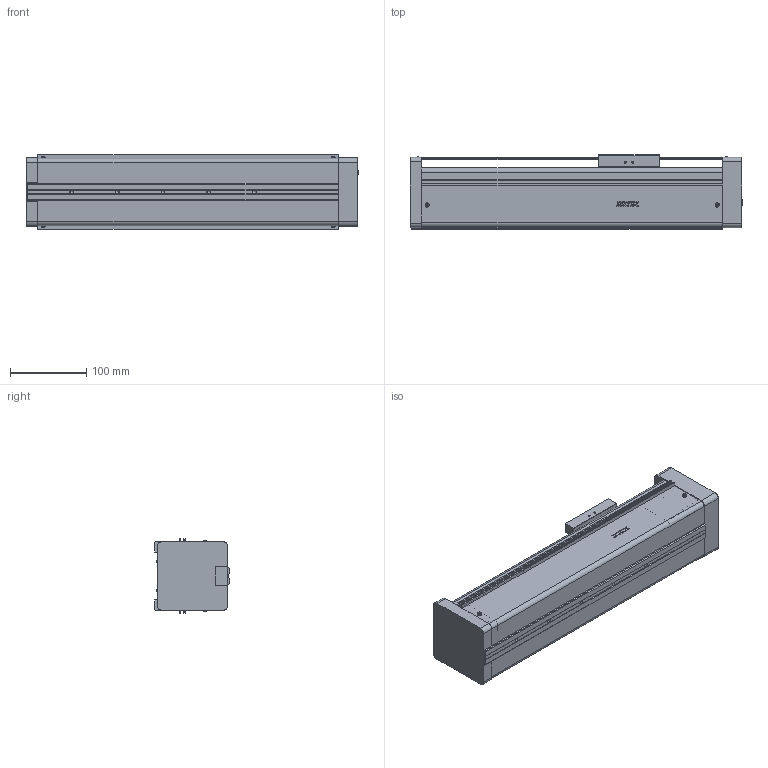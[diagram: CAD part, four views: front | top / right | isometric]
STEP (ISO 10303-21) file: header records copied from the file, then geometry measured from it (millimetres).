
FILE_DESCRIPTION(/* description */ (''),/* implementation_level */ '2;1');
FILE_NAME(/* name */ 'D:\混合母檔20191031\混和母檔\混和母檔\bin\Debug\Download\3D\KE9010C-200AF0\KE9010C-200AF0.stp',/* time_stamp */ '2019-11-04T14:22:27+08:00',/* author */ ('user'),/* organization */ (''),/* preprocessor_version */ 'ST-DEVELOPER v16.13',/* originating_system */ 'Autodesk Inventor 2018',/* authorisation */ '');
FILE_SCHEMA (('AUTOMOTIVE_DESIGN { 1 0 10303 214 3 1 1 }'));
Length unit declared in the file: millimetre
Products named in the file (3): KE9010C-200AF0; KE90-F0-BP; KE90-SL
Assembly tree (2 placements, depth 2):
  KE9010C-200AF0
    KE90-F0-BP
    KE90-SL
Bounding box: 436 x 98 x 98.4 mm (x, y, z)
Volume: 3033926.1 mm3; surface area: 308647 mm2
Topology: 3 solids, 22 shells, 871 faces, 2307 edges, 1523 vertices
Faces by surface type: plane 494, bspline 136, cone 115, cylinder 78, torus 40, sphere 8
Full cylindrical faces by diameter (mm): 2.5 x16, 3 x2, 3.3 x4, 4.2 x4, 4.5 x6, 4.917 x5, 5 x9, 8 x7, 46 x1, 50 x1
Entity records: 30488 total; most frequent: CARTESIAN_POINT 9550, ORIENTED_EDGE 4354, DIRECTION 3829, EDGE_CURVE 2177, VERTEX_POINT 1487, AXIS2_PLACEMENT_3D 1292, LINE 1245, VECTOR 1245
